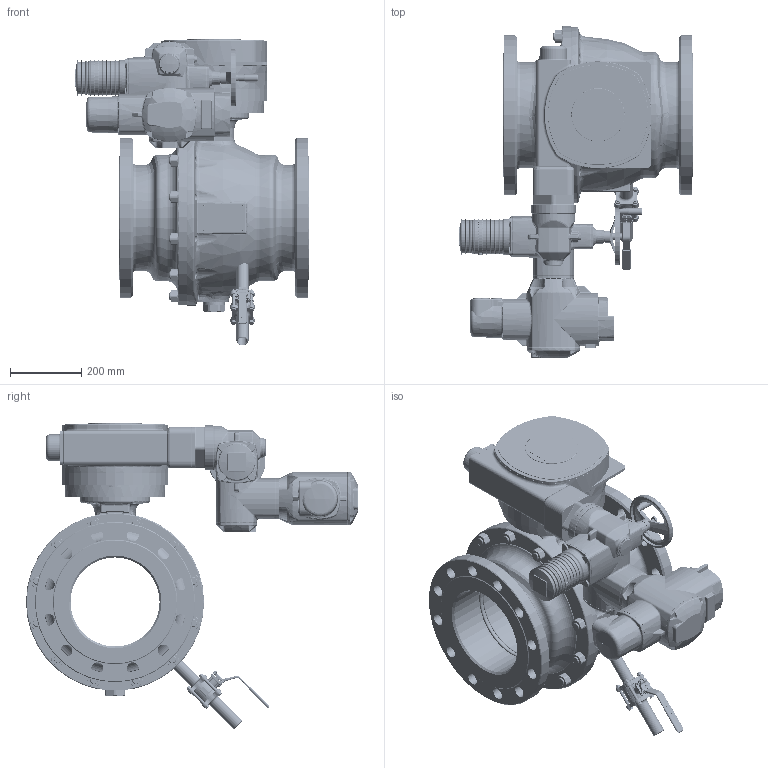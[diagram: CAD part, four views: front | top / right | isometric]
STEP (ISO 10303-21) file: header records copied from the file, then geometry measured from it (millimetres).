
FILE_DESCRIPTION((''),'2;1');
FILE_NAME('250_ASM','2017-01-17T',('schwaba'),('RAND'),'PRO/ENGINEER BY PARAMETRIC TECHNOLOGY CORPORATION, 2016100','PRO/ENGINEER BY PARAMETRIC TECHNOLOGY CORPORATION, 2016100','');
FILE_SCHEMA(('CONFIG_CONTROL_DESIGN'));
Products named in the file (3): KHI_250_PN40_FR_WE_ENTL_O_IT; GS125_F25_SA07_AM_ZWPL_DN300; 250_ASM
Assembly tree (2 placements, depth 2):
  250_ASM
    KHI_250_PN40_FR_WE_ENTL_O_IT
    GS125_F25_SA07_AM_ZWPL_DN300
Bounding box: 656.5 x 931.98 x 860.24 mm (x, y, z)
Volume: 59626299.1 mm3; surface area: 4507247.1 mm2
Topology: 3 solids, 10 shells, 5982 faces, 14532 edges, 8738 vertices
Faces by surface type: plane 1903, bspline 1331, cylinder 1278, torus 725, cone 624, sphere 121
Entity records: 385680 total; most frequent: CARTESIAN_POINT 254487, ORIENTED_EDGE 28956, DIRECTION 25490, EDGE_CURVE 14478, AXIS2_PLACEMENT_3D 9927, VERTEX_POINT 8738, EDGE_LOOP 6342, FACE_OUTER_BOUND 5982
